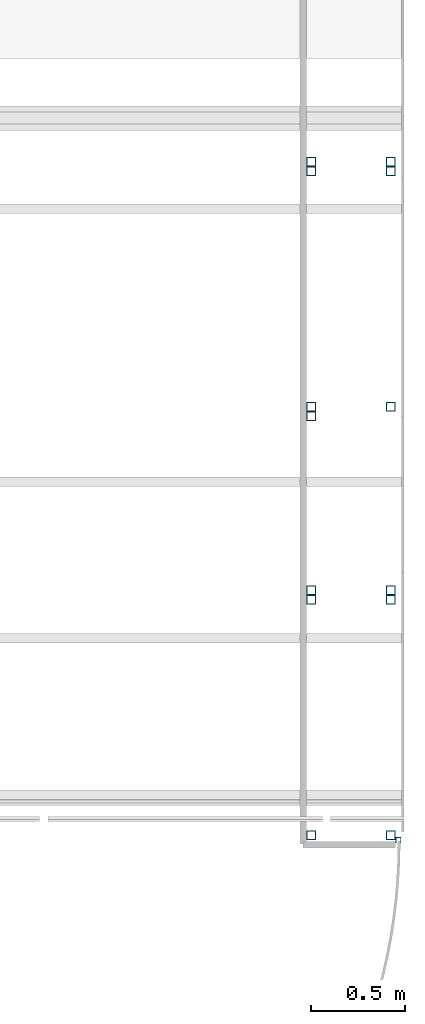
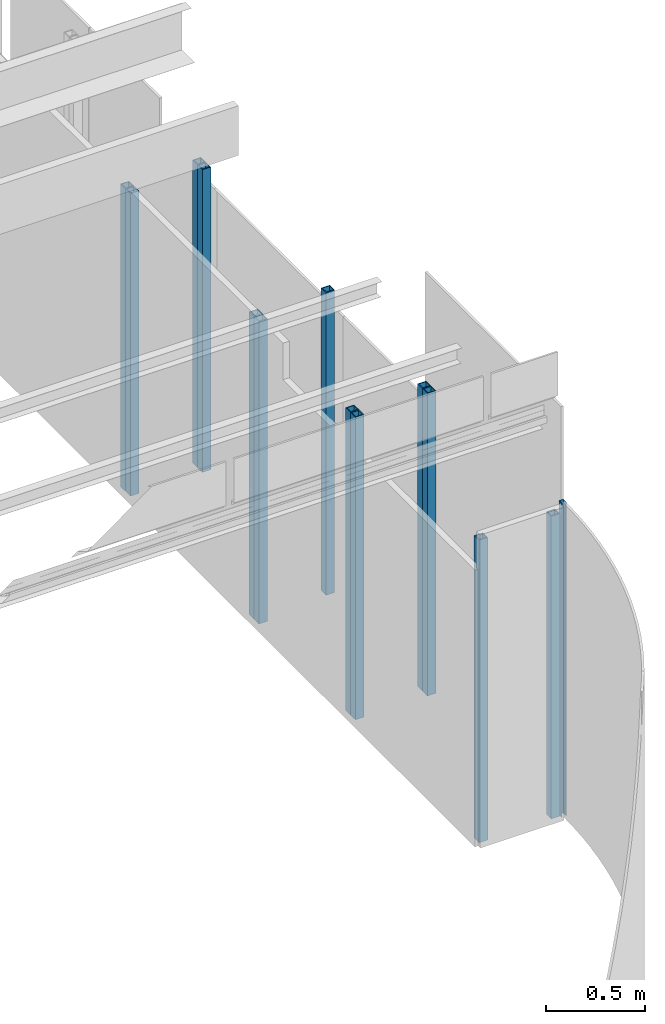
# One storey, part 4 of 11: 14 columns.
"""IFC2X3 building model written with IfcOpenShell, lengths in millimetres."""

from ifc_helpers import new_model, entity, si_unit, converted_unit, derived_unit, direction, frame, origin, origin_with_axes, place, context, subcontext, project, spatial, polyline, outline, extrude, faceted_brep, source, transform, mapped, material, type_object, element, save


model = new_model("IFC2X3")

# Units and contexts
model_context = context("Model", 3, precision=0.01, world=frame((0.0, 4.29681676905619e-09, 0.0)), true_north=direction((4.01073788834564e-13, 1.0)))
plan_context = context("Plan", 3, precision=0.01, world=frame((0.0, 4.29681676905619e-09, 0.0)), true_north=direction((4.01073788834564e-13, 1.0)))
body_context = subcontext(model_context, "Body", "Model", "MODEL_VIEW")
ifc_project = project(units=[converted_unit("PLANEANGLEUNIT", "DEGREE", entity("IfcPositiveLengthMeasure", 0.0174532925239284), si_unit("PLANEANGLEUNIT", "RADIAN"), dimensions=[0, 0, 0, 0, 0, 0, 0]), si_unit("AREAUNIT", "SQUARE_METRE"), si_unit("LENGTHUNIT", "METRE", prefix="MILLI"), si_unit("MASSUNIT", "GRAM", prefix="KILO"), si_unit("POWERUNIT", "WATT"), si_unit("PRESSUREUNIT", "PASCAL"), si_unit("FORCEUNIT", "NEWTON", prefix="KILO"), si_unit("ELECTRICVOLTAGEUNIT", "VOLT"), si_unit("ELECTRICCURRENTUNIT", "AMPERE"), si_unit("THERMODYNAMICTEMPERATUREUNIT", "DEGREE_CELSIUS"), si_unit("TIMEUNIT", "SECOND"), si_unit("VOLUMEUNIT", "CUBIC_METRE"), derived_unit("LINEARVELOCITYUNIT", [(si_unit("LENGTHUNIT", "METRE"), 1), (si_unit("TIMEUNIT", "SECOND"), -1)]), derived_unit("VOLUMETRICFLOWRATEUNIT", [(si_unit("VOLUMEUNIT", "CUBIC_METRE"), 1), (si_unit("TIMEUNIT", "SECOND"), -1)]), derived_unit("THERMALTRANSMITTANCEUNIT", [(si_unit("POWERUNIT", "WATT"), 1), (si_unit("THERMODYNAMICTEMPERATUREUNIT", "KELVIN"), -1), (si_unit("AREAUNIT", "SQUARE_METRE"), -1)]), derived_unit("SOUNDPRESSUREUNIT", [(si_unit("PRESSUREUNIT", "PASCAL"), 1)])], contexts=[model_context, plan_context])

# Site, building, storey
site_placement = place(None, origin_with_axes())
site = spatial("IfcSite", under=ifc_project, at=site_placement, Name="ENGM", CompositionType="ELEMENT")
building_placement = place(site_placement, origin_with_axes())
building = spatial("IfcBuilding", under=site, at=building_placement, Name="TH", CompositionType="ELEMENT")
storey_placement = place(building_placement, frame((0.0, 0.0, 210900.0), z_axis=(0.0, 0.0, 1.0), x_axis=(1.0, 0.0, 0.0)))
storey = spatial("IfcBuildingStorey", under=building, at=storey_placement, Name="Nivå F", CompositionType="ELEMENT", Elevation=210900.0)

# Columns
ifc_material = material(Name="_NSW Stål")
column_type_1 = type_object("IfcColumnType", Name="A241 - Glassramme Book Shop:A241 - 30x27mm", PredefinedType="COLUMN", material=ifc_material)
shared_shape_1 = source(origin(), body_context, "Body", "Brep", [
    faceted_brep([(-11.4999999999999, -15.0, 212835.0), (-13.4999999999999, -15.0, 212835.0), (-13.4999999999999, -15.0, 210900.0), (-11.4999999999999, -15.0, 210900.0), (-11.4999999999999, 13.0, 212835.0), (-11.4999999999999, 13.0, 210900.0), (11.5000000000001, 13.0, 212835.0), (11.5000000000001, 13.0, 210900.0), (11.5000000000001, -15.0, 212835.0), (11.5000000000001, -15.0, 210900.0), (13.5000000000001, -15.0, 212835.0), (13.5000000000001, -15.0, 210900.0), (13.5000000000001, 15.0, 212835.0), (13.5000000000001, 15.0, 210900.0), (-13.4999999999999, 15.0, 212835.0), (-13.4999999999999, 15.0, 210900.0)], [[[0, 1, 2, 3]], [[4, 0, 3, 5]], [[6, 4, 5, 7]], [[8, 6, 7, 9]], [[10, 8, 9, 11]], [[12, 10, 11, 13]], [[14, 12, 13, 15]], [[1, 14, 15, 2]], [[1, 0, 4, 6, 8, 10, 12, 14]], [[3, 2, 15, 13, 11, 9, 7, 5]]]),
])
column_placement = place(storey_placement, frame((910381.499999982, 480695.976005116, -210900.0), z_axis=(0.0, 0.0, 1.0), x_axis=(1.0, 0.0, 0.0)))
element("IfcColumn", 1, at=column_placement, inside=storey, type_object=column_type_1, material=ifc_material, Name="A241 - Glassramme Book Shop:A241 - 30x27mm", ObjectType="A241 - Glassramme Book Shop:A241 - 30x27mm", context=body_context, shape_type="MappedRepresentation", body=[
    mapped(shared_shape_1, transform((0.0, 0.0, 0.0), scale=1.0)),
])
column_type_2 = type_object("IfcColumnType", Name="B222 - HUP7:B222 - HUP 50x50x5", PredefinedType="COLUMN", material=ifc_material)
shared_shape_2 = source(origin(), body_context, "Body", "SweptSolid", [
    extrude(outline(polyline([(-25.0, -25.0), (25.0, -25.0), (25.0, 25.0), (-25.0, 25.0), (-25.0, -25.0)]), holes=[polyline([(-20.0, -20.0), (-20.0, 20.0), (20.0, 20.0), (20.0, -20.0), (-20.0, -20.0)])]), frame((0.0, 0.0, 210900.0), z_axis=(0.0, 0.0, 1.0), x_axis=(-1.0, 0.0, 0.0)), (0.0, 0.0, 1.0), 1864.99999999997),
])
for number, where, z_axis, x_axis in (
    (2, (909920.000000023, 480720.579202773, -210900.0), (0.0, 0.0, 1.0), (0.0, 1.0, 0.0)),
    (3, (910340.000000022, 480720.579202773, -210900.0), (0.0, 0.0, 1.0), (0.0, 1.0, 0.0)),
    (4, (909920.000000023, 481969.618432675, -210900.0), (0.0, 0.0, 1.0), (0.0, 1.0, 0.0)),
    (5, (910340.000000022, 481969.618432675, -210900.0), (0.0, 0.0, 1.0), (0.0, 1.0, 0.0)),
    (6, (909920.000000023, 482019.618432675, -210900.0), (0.0, 0.0, 1.0), (0.0, 1.0, 0.0)),
    (7, (910340.000000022, 482019.618432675, -210900.0), (0.0, 0.0, 1.0), (0.0, 1.0, 0.0)),
    (8, (909920.000000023, 482943.654644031, -210900.0), (0.0, 0.0, 1.0), (0.0, 1.0, 0.0)),
    (9, (909920.000000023, 482993.654644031, -210900.0), (0.0, 0.0, 1.0), (0.0, 1.0, 0.0)),
    (10, (910340.000000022, 482993.654644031, -210900.0), (0.0, 0.0, 1.0), (0.0, 1.0, 0.0)),
    (11, (909920.000000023, 484242.694644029, -210900.0), (0.0, 0.0, 1.0), (0.0, 1.0, 0.0)),
    (12, (910340.000000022, 484242.694644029, -210900.0), (0.0, 0.0, 1.0), (0.0, 1.0, 0.0)),
    (13, (909920.000000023, 484292.694644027, -210900.0), (0.0, 0.0, 1.0), (0.0, 1.0, 0.0)),
    (14, (910340.000000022, 484292.694644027, -210900.0), (0.0, 0.0, 1.0), (0.0, 1.0, 0.0)),
):
    element("IfcColumn", number, at=place(storey_placement, frame(where, z_axis=z_axis, x_axis=x_axis)), inside=storey, type_object=column_type_2, material=ifc_material, Name="B222 - HUP7:B222 - HUP 50x50x5", ObjectType="B222 - HUP7:B222 - HUP 50x50x5", context=body_context, shape_type="MappedRepresentation", body=[
        mapped(shared_shape_2, transform((0.0, 0.0, 0.0), scale=1.0)),
    ])

save(model, "model.ifc")
